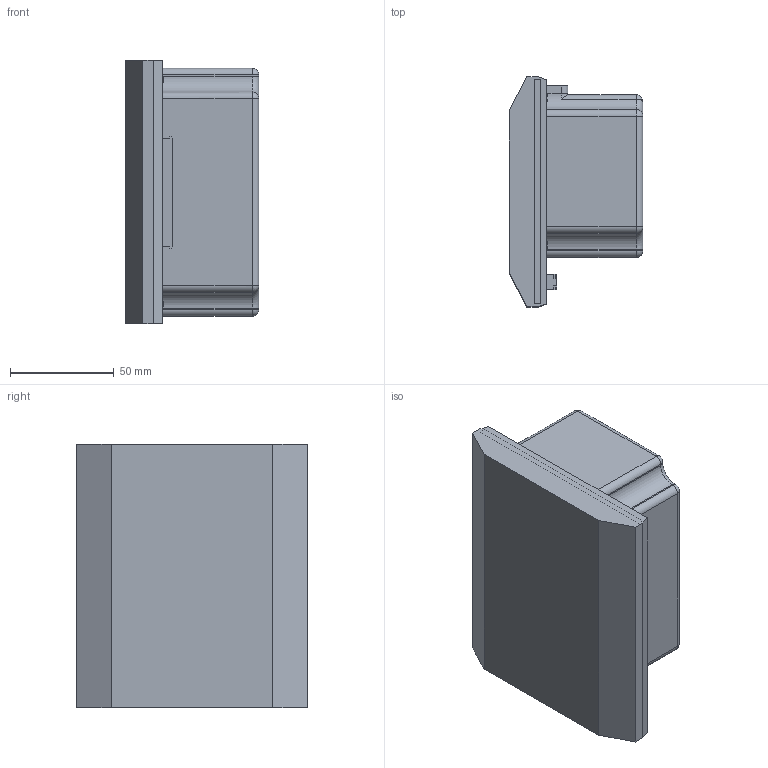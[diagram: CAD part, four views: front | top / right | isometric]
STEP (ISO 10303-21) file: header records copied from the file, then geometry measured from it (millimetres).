
FILE_DESCRIPTION((''),'2;1');
FILE_NAME('ASSY_TBX-68SW_SW0001','2007-10-10T',('scarrasc'),(''),'PRO/ENGINEER BY PARAMETRIC TECHNOLOGY CORPORATION, 2006080','PRO/ENGINEER BY PARAMETRIC TECHNOLOGY CORPORATION, 2006080','');
FILE_SCHEMA(('CONFIG_CONTROL_DESIGN'));
Length unit declared in the file: inch
Products named in the file (1): ASSY_TBX-68SW_SW0001
Bounding box: 64.37 x 111 x 126.75 mm (x, y, z)
Volume: 211986.8 mm3; surface area: 133958.4 mm2
Topology: 1 solids, 1 shells, 1325 faces, 3131 edges, 2061 vertices
Faces by surface type: plane 1008, cylinder 273, sphere 24, torus 12, cone 8
Entity records: 38388 total; most frequent: CARTESIAN_POINT 7216, DIRECTION 6329, ORIENTED_EDGE 6246, EDGE_CURVE 3123, VECTOR 2487, LINE 2487, VERTEX_POINT 2061, AXIS2_PLACEMENT_3D 1921
